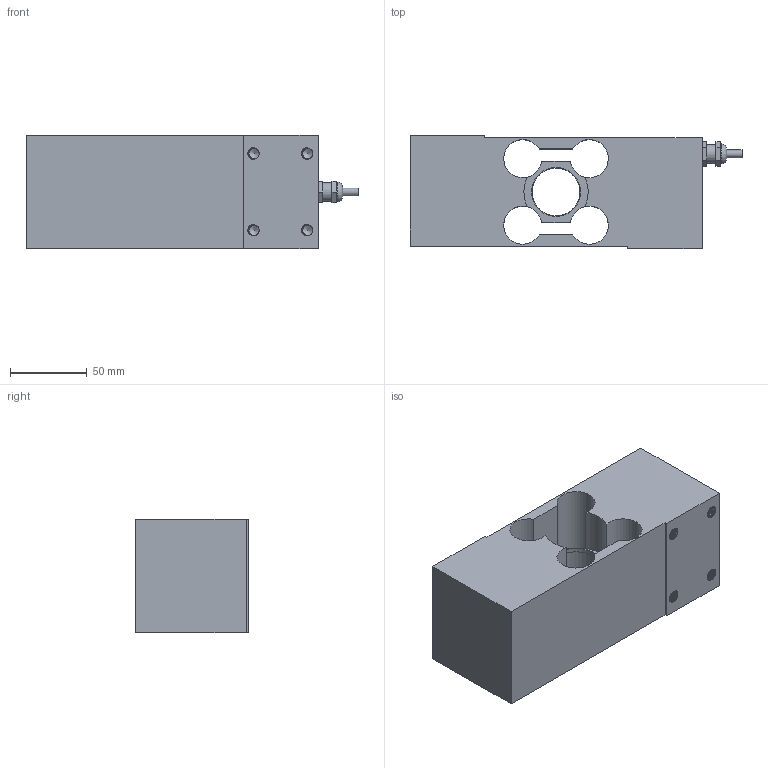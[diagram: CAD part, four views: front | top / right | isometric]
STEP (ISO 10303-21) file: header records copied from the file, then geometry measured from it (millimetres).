
FILE_DESCRIPTION(/* description */ (''),/* implementation_level */ '2;1');
FILE_NAME(/* name */ 'C:/Users/fardi/Dropbox/Anyload/Load Cell Models/3D Drawing/651/651KSBC, 651KSBCUN/651KSBC-(100-250)kg v2.step',/* time_stamp */ '2020-02-12T13:31:45-08:00',/* author */ (''),/* organization */ (''),/* preprocessor_version */ 'ST-DEVELOPER v18',/* originating_system */ 'Autodesk Translation Framework v8.12.0.6',/* authorisation */ '');
FILE_SCHEMA (('AUTOMOTIVE_DESIGN { 1 0 10303 214 3 1 1 }'));
Length unit declared in the file: millimetre
Products named in the file (2): 651KSBC-(100-250)kg; Connector
Assembly tree (1 placements, depth 2):
  651KSBC-(100-250)kg
    Connector
Bounding box: 216.53 x 73.7 x 73.7 mm (x, y, z)
Volume: 748327.8 mm3; surface area: 94275 mm2
Topology: 2 solids, 2 shells, 391 faces, 1034 edges, 652 vertices
Faces by surface type: cylinder 320, plane 45, bspline 17, cone 9
Full cylindrical faces by diameter (mm): 5.1 x1, 6.779 x144, 8.17 x128, 10 x1, 12 x2, 13 x1, 31.191 x1, 31.8 x2
Entity records: 27827 total; most frequent: CARTESIAN_POINT 19233, ORIENTED_EDGE 2050, DIRECTION 1327, EDGE_CURVE 1025, VERTEX_POINT 652, B_SPLINE_CURVE_WITH_KNOTS 544, AXIS2_PLACEMENT_3D 469, EDGE_LOOP 411
